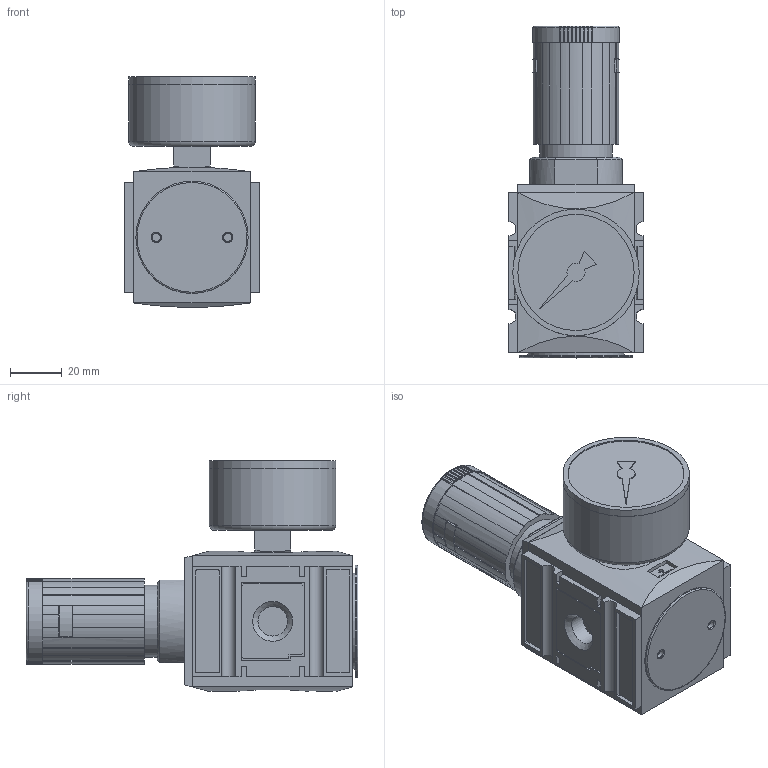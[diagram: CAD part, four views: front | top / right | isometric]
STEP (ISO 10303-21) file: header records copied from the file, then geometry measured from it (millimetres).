
FILE_DESCRIPTION( ( 'STEP AP214' ), ' ' );
FILE_NAME( 'p:/temp/worker_4412/4756_5664/app_46_02017011211343881810710192d056f_000000_00_00_000000/format_1/FU 7216.stp', '2017-01-12T10:34:42', ( '' ), ( '' ), ' ', 'PARTsolutions', ' ' );
FILE_SCHEMA( ( 'AUTOMOTIVE_DESIGN { 1 0 10303 214 1 1 1 1 }' ) );
Length unit declared in the file: millimetre
Products named in the file (4): FU 7216; _FU 7216-1; _FU 7216-3; _FU 7216-2
Assembly tree (3 placements, depth 2):
  FU 7216
    _FU 7216-1
    _FU 7216-3
    _FU 7216-2
Bounding box: 52 x 128.5 x 89.3 mm (x, y, z)
Volume: 268477 mm3; surface area: 42618.2 mm2
Topology: 3 solids, 3 shells, 477 faces, 1247 edges, 817 vertices
Faces by surface type: plane 318, cylinder 125, torus 22, cone 12
Full cylindrical faces by diameter (mm): 3.242 x2, 10.917 x1, 11.445 x3, 12 x1, 15.1 x1, 16.5 x1, 16.8 x2, 28 x3, 36 x1, 37.2 x1, 43.5 x1, 45 x1, 48.96 x1, 49 x2
Entity records: 18581 total; most frequent: CARTESIAN_POINT 2768, DIRECTION 2563, ORIENTED_EDGE 2412, EDGE_CURVE 1206, AXIS2_PLACEMENT_3D 894, VERTEX_POINT 811, LINE 775, VECTOR 775
